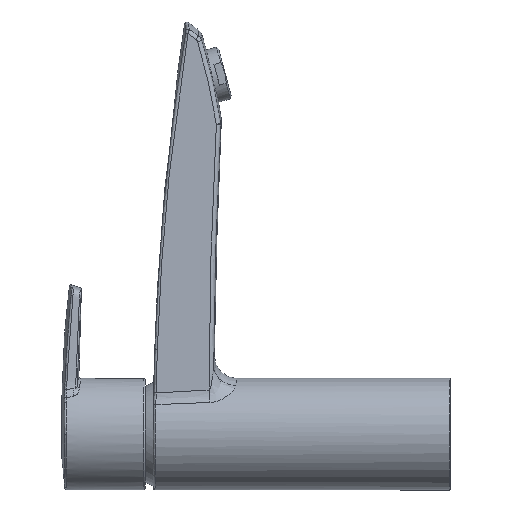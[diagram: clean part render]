
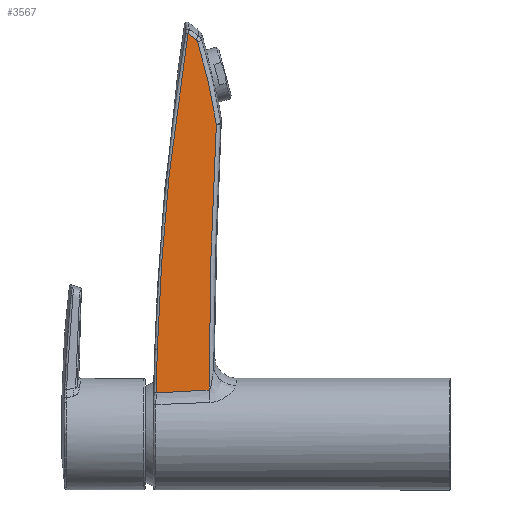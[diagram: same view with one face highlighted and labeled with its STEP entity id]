
A CAD part, left-side view. The second image highlights one B-rep face of the part: STEP entity #3567.
In plain terms, the highlighted free-form (B-spline) face has degree [3, 1] with [4, 2] control points.
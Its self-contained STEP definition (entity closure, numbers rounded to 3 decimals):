
#184 = VERTEX_POINT ( 'NONE', #2799 ) ;
#207 = CARTESIAN_POINT ( 'NONE',  ( -16.185, 94.05, 203.694 ) ) ;
#281 = CARTESIAN_POINT ( 'NONE',  ( -19.314, 138.05, 66.321 ) ) ;
#320 = CARTESIAN_POINT ( 'NONE',  ( -19.574, 131.697, 24.983 ) ) ;
#425 = CARTESIAN_POINT ( 'NONE',  ( -19.077, 116.026, 19.382 ) ) ;
#609 = CARTESIAN_POINT ( 'NONE',  ( -17.282, 105.349, 142. ) ) ;
#644 = CARTESIAN_POINT ( 'NONE',  ( -17.166, 113.352, 176.083 ) ) ;
#682 = CARTESIAN_POINT ( 'NONE',  ( -17.166, 113.289, 175.875 ) ) ;
#805 = B_SPLINE_CURVE_WITH_KNOTS ( 'NONE', 3,
 ( #10301, #3367, #6648, #1663, #7436, #2516, #8218, #3403, #8941, #4257 ),
 .UNSPECIFIED., .F., .F.,
 ( 4, 2, 2, 2, 4 ),
 ( 0., 0.036, 0.071, 0.107, 0.142 ),
 .UNSPECIFIED. ) ;
#863 = CARTESIAN_POINT ( 'NONE',  ( -17.239, 116.348, 178.68 ) ) ;
#1125 = CARTESIAN_POINT ( 'NONE',  ( -20.123, 138.05, -2.218 ) ) ;
#1163 = CARTESIAN_POINT ( 'NONE',  ( -19.408, 131.315, 37.979 ) ) ;
#1236 = CARTESIAN_POINT ( 'NONE',  ( -19.655, 131.824, 18.484 ) ) ;
#1324 = ORIENTED_EDGE ( 'NONE', *, *, #3612, .T. ) ;
#1360 = CARTESIAN_POINT ( 'NONE',  ( -17.301, 104.863, 138.867 ) ) ;
#1453 = CARTESIAN_POINT ( 'NONE',  ( -17.256, 106.152, 146.683 ) ) ;
#1524 = CARTESIAN_POINT ( 'NONE',  ( -17.167, 113.443, 176.278 ) ) ;
#1616 = B_SPLINE_CURVE_WITH_KNOTS ( 'NONE', 3,
 ( #10132, #4839, #609, #6458, #1453, #7234, #2291, #8026, #3165, #8764, #4049, #9459 ),
 .UNSPECIFIED., .F., .F.,
 ( 4, 2, 2, 2, 2, 4 ),
 ( 0., 0.005, 0.009, 0.019, 0.028, 0.038 ),
 .UNSPECIFIED. ) ;
#1634 = B_SPLINE_CURVE_WITH_KNOTS ( 'NONE', 3,
 ( #1163, #6181, #320, #1998 ),
 .UNSPECIFIED., .F., .F.,
 ( 4, 4 ),
 ( 0., 0.02 ),
 .UNSPECIFIED. ) ;
#1663 = CARTESIAN_POINT ( 'NONE',  ( -18.05, 124.228, 132.537 ) ) ;
#1688 = CARTESIAN_POINT ( 'NONE',  ( -18.789, 108.125, 19.8 ) ) ;
#1698 = CARTESIAN_POINT ( 'NONE',  ( -17.272, 117.564, 179.49 ) ) ;
#1998 = CARTESIAN_POINT ( 'NONE',  ( -19.655, 131.824, 18.484 ) ) ;
#2291 = CARTESIAN_POINT ( 'NONE',  ( -17.22, 107.676, 154.445 ) ) ;
#2364 = CARTESIAN_POINT ( 'NONE',  ( -17.174, 113.835, 176.797 ) ) ;
#2516 = CARTESIAN_POINT ( 'NONE',  ( -18.591, 127.851, 97.152 ) ) ;
#2796 = CARTESIAN_POINT ( 'NONE',  ( -18.329, 108.082, 59.509 ) ) ;
#2799 = CARTESIAN_POINT ( 'NONE',  ( -17.272, 117.564, 179.49 ) ) ;
#2905 = ORIENTED_EDGE ( 'NONE', *, *, #7781, .T. ) ;
#2938 = ORIENTED_EDGE ( 'NONE', *, *, #9292, .T. ) ;
#2957 = ORIENTED_EDGE ( 'NONE', *, *, #9117, .T. ) ;
#2970 = ORIENTED_EDGE ( 'NONE', *, *, #7247, .T. ) ;
#3038 = ORIENTED_EDGE ( 'NONE', *, *, #7425, .T. ) ;
#3051 = ORIENTED_EDGE ( 'NONE', *, *, #4579, .T. ) ;
#3165 = CARTESIAN_POINT ( 'NONE',  ( -17.188, 109.829, 163.687 ) ) ;
#3353 = VERTEX_POINT ( 'NONE', #1688 ) ;
#3367 = CARTESIAN_POINT ( 'NONE',  ( -17.474, 119.472, 167.787 ) ) ;
#3403 = CARTESIAN_POINT ( 'NONE',  ( -19.095, 130.348, 61.672 ) ) ;
#3567 = ADVANCED_FACE ( 'NONE', ( #7110 ), #3980, .T. ) ;
#3612 = EDGE_CURVE ( 'NONE', #5334, #7438, #1634, .T. ) ;
#3674 = B_SPLINE_CURVE_WITH_KNOTS ( 'NONE', 3,
 ( #6923, #2796, #9921, #5409 ),
 .UNSPECIFIED., .F., .F.,
 ( 4, 4 ),
 ( 0.003, 0.122 ),
 .UNSPECIFIED. ) ;
#3980 = B_SPLINE_SURFACE_WITH_KNOTS ( 'NONE', 3, 1, ( 
 ( #6077, #207 ),
 ( #9858, #5339 ),
 ( #281, #6146 ),
 ( #1125, #6924 ) ),
 .UNSPECIFIED., .F., .F., .F.,
 ( 4, 4 ),
 ( 2, 2 ),
 ( 0., 1. ),
 ( 0., 1. ),
 .UNSPECIFIED. ) ;
#4049 = CARTESIAN_POINT ( 'NONE',  ( -17.17, 112.375, 172.839 ) ) ;
#4084 = CARTESIAN_POINT ( 'NONE',  ( -19.655, 131.824, 18.484 ) ) ;
#4257 = CARTESIAN_POINT ( 'NONE',  ( -19.408, 131.315, 37.979 ) ) ;
#4354 = CARTESIAN_POINT ( 'NONE',  ( -19.408, 131.315, 37.979 ) ) ;
#4579 = EDGE_CURVE ( 'NONE', #7907, #184, #6204, .T. ) ;
#4839 = CARTESIAN_POINT ( 'NONE',  ( -17.292, 105.106, 140.433 ) ) ;
#5082 = CARTESIAN_POINT ( 'NONE',  ( -17.194, 114.587, 177.376 ) ) ;
#5334 = VERTEX_POINT ( 'NONE', #4354 ) ;
#5339 = CARTESIAN_POINT ( 'NONE',  ( -16.989, 94.05, 133.254 ) ) ;
#5409 = CARTESIAN_POINT ( 'NONE',  ( -17.301, 104.863, 138.867 ) ) ;
#5898 = CARTESIAN_POINT ( 'NONE',  ( -17.208, 115.164, 177.824 ) ) ;
#6023 = VERTEX_POINT ( 'NONE', #1360 ) ;
#6077 = CARTESIAN_POINT ( 'NONE',  ( -17.696, 138.05, 203.4 ) ) ;
#6146 = CARTESIAN_POINT ( 'NONE',  ( -17.793, 94.05, 62.815 ) ) ;
#6181 = CARTESIAN_POINT ( 'NONE',  ( -19.492, 131.528, 31.481 ) ) ;
#6204 = B_SPLINE_CURVE_WITH_KNOTS ( 'NONE', 3,
 ( #9638, #5082, #5898, #863, #6683, #1698 ),
 .UNSPECIFIED., .F., .F.,
 ( 4, 2, 4 ),
 ( 0., 0.002, 0.004 ),
 .UNSPECIFIED. ) ;
#6282 = CARTESIAN_POINT ( 'NONE',  ( -18.789, 108.125, 19.8 ) ) ;
#6458 = CARTESIAN_POINT ( 'NONE',  ( -17.264, 105.872, 145.124 ) ) ;
#6648 = CARTESIAN_POINT ( 'NONE',  ( -17.67, 121.184, 156.055 ) ) ;
#6650 = B_SPLINE_CURVE_WITH_KNOTS ( 'NONE', 3,
 ( #1236, #7818, #425, #6282 ),
 .UNSPECIFIED., .F., .F.,
 ( 4, 4 ),
 ( 0.001, 0.025 ),
 .UNSPECIFIED. ) ;
#6683 = CARTESIAN_POINT ( 'NONE',  ( -17.255, 116.95, 179.093 ) ) ;
#6923 = CARTESIAN_POINT ( 'NONE',  ( -18.789, 108.125, 19.8 ) ) ;
#6924 = CARTESIAN_POINT ( 'NONE',  ( -18.597, 94.05, -7.625 ) ) ;
#7110 = FACE_OUTER_BOUND ( 'NONE', #7237, .T. ) ;
#7234 = CARTESIAN_POINT ( 'NONE',  ( -17.233, 107.032, 151.348 ) ) ;
#7237 = EDGE_LOOP ( 'NONE', ( #2905, #1324, #2938, #2957, #2970, #3038, #3051 ) ) ;
#7247 = EDGE_CURVE ( 'NONE', #6023, #9261, #1616, .T. ) ;
#7301 = CARTESIAN_POINT ( 'NONE',  ( -17.171, 113.687, 176.639 ) ) ;
#7425 = EDGE_CURVE ( 'NONE', #9261, #7907, #8425, .T. ) ;
#7436 = CARTESIAN_POINT ( 'NONE',  ( -18.234, 125.56, 120.754 ) ) ;
#7438 = VERTEX_POINT ( 'NONE', #4084 ) ;
#7781 = EDGE_CURVE ( 'NONE', #184, #5334, #805, .T. ) ;
#7818 = CARTESIAN_POINT ( 'NONE',  ( -19.366, 123.926, 18.945 ) ) ;
#7907 = VERTEX_POINT ( 'NONE', #8971 ) ;
#8026 = CARTESIAN_POINT ( 'NONE',  ( -17.197, 109.077, 160.614 ) ) ;
#8091 = CARTESIAN_POINT ( 'NONE',  ( -17.179, 114.008, 176.93 ) ) ;
#8218 = CARTESIAN_POINT ( 'NONE',  ( -18.763, 128.81, 85.331 ) ) ;
#8425 = B_SPLINE_CURVE_WITH_KNOTS ( 'NONE', 3,
 ( #682, #644, #1524, #7301, #2364, #8091 ),
 .UNSPECIFIED., .F., .F.,
 ( 4, 2, 4 ),
 ( 0., 0.001, 0.001 ),
 .UNSPECIFIED. ) ;
#8764 = CARTESIAN_POINT ( 'NONE',  ( -17.174, 111.474, 169.8 ) ) ;
#8941 = CARTESIAN_POINT ( 'NONE',  ( -19.255, 130.927, 49.831 ) ) ;
#8971 = CARTESIAN_POINT ( 'NONE',  ( -17.179, 114.008, 176.93 ) ) ;
#9117 = EDGE_CURVE ( 'NONE', #3353, #6023, #3674, .T. ) ;
#9245 = CARTESIAN_POINT ( 'NONE',  ( -17.166, 113.289, 175.875 ) ) ;
#9261 = VERTEX_POINT ( 'NONE', #9245 ) ;
#9292 = EDGE_CURVE ( 'NONE', #7438, #3353, #6650, .T. ) ;
#9459 = CARTESIAN_POINT ( 'NONE',  ( -17.166, 113.289, 175.875 ) ) ;
#9638 = CARTESIAN_POINT ( 'NONE',  ( -17.179, 114.008, 176.93 ) ) ;
#9858 = CARTESIAN_POINT ( 'NONE',  ( -18.505, 138.05, 134.86 ) ) ;
#9921 = CARTESIAN_POINT ( 'NONE',  ( -17.832, 106.995, 99.215 ) ) ;
#10132 = CARTESIAN_POINT ( 'NONE',  ( -17.301, 104.863, 138.867 ) ) ;
#10301 = CARTESIAN_POINT ( 'NONE',  ( -17.272, 117.564, 179.49 ) ) ;
